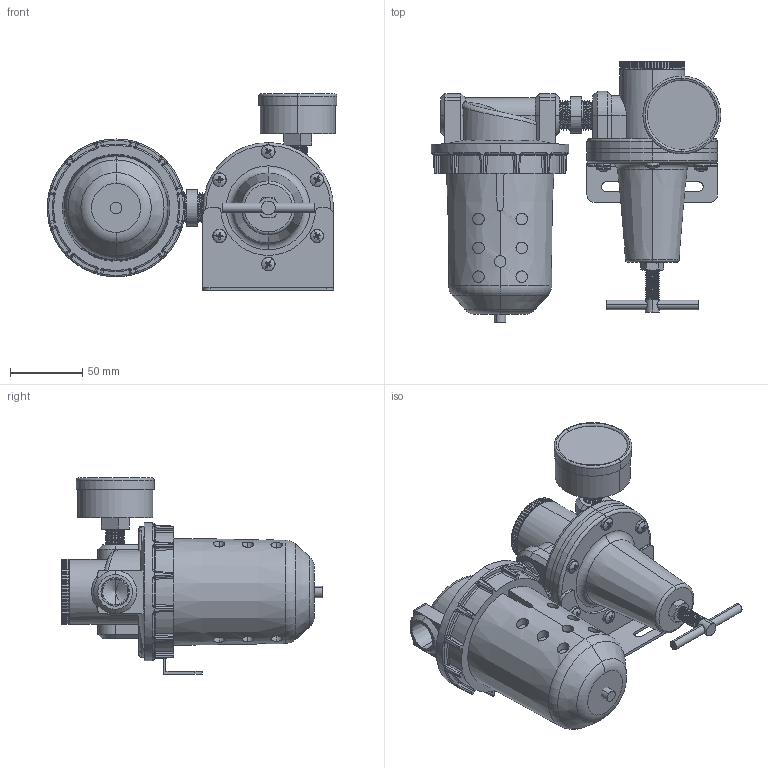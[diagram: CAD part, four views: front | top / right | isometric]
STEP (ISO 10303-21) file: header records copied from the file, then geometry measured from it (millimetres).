
FILE_DESCRIPTION (( 'STEP AP203' ), '1' );
FILE_NAME ('U628#-04#YB#.STEP', '2016-01-14T17:28:11', ( '' ), ( '' ), 'SwSTEP 2.0', 'SolidWorks 2014', '' );
FILE_SCHEMA (( 'CONFIG_CONTROL_DESIGN' ));
Length unit declared in the file: millimetre
Products named in the file (19): R119-02-6; KW18A57; R119-04-1; R119-04; 50-P-AD=1-4PT-1; L606-W-06-5; 50-P-AD=1-4PT.SLDPRT; F602-04-上; ISO 7045 - M5 x 12; F602-04-下; R119-04-2; R119-04-3; F602-04#YB#; R119-04-4; U628#-04#YB#; R119-02-7; 50-P-AD=1-4PT-2; R119-02-5; 1-2-圓
Assembly tree (23 placements, depth 4):
  U628#-04#YB#
    F602-04#YB#
      L606-W-06-5
      F602-04-上
      F602-04-下
    R119-04
      R119-04-1
      R119-04-2
      R119-04-3
      R119-04-4
      R119-02-5
      R119-02-7
      R119-02-6
      ISO 7045 - M5 x 12  x6
      50-P-AD=1-4PT.SLDPRT
        50-P-AD=1-4PT-1
        50-P-AD=1-4PT-2
      KW18A57
    1-2-圓
Bounding box: 200.75 x 181.5 x 136 mm (x, y, z)
Volume: 997722.4 mm3; surface area: 165791.7 mm2
Topology: 20 solids, 20 shells, 1197 faces, 2901 edges, 1732 vertices
Faces by surface type: plane 399, cylinder 307, cone 278, bspline 106, torus 65, sphere 42
Entity records: 45634 total; most frequent: CARTESIAN_POINT 21516, ORIENTED_EDGE 4886, DIRECTION 4265, EDGE_CURVE 2443, AXIS2_PLACEMENT_3D 1756, VERTEX_POINT 1477, EDGE_LOOP 1084, ADVANCED_FACE 1027
